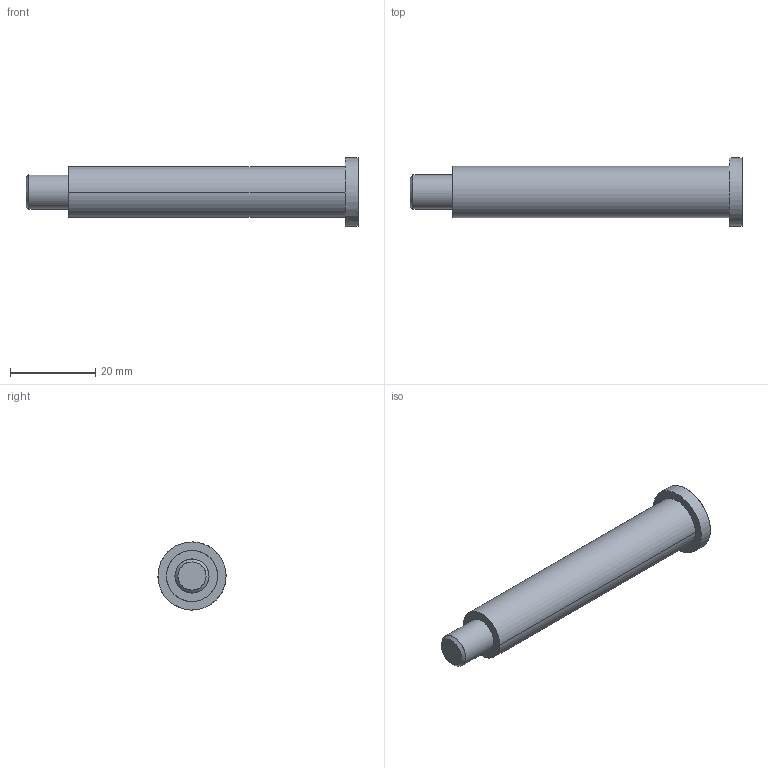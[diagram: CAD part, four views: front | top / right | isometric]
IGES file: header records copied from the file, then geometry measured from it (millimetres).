
Start section: JAMA-IS VERSION  1.0
Global section: file name: E:\tools-models\その他メーカー2\INOAC車輪\7月\HP-100WJ\HP-100WJ-15.igs; native system: CAM-TOOL; preprocessor: C3out Version 11.1.1.50212 (2015/02/12); author: NONE; organization: NONE; date: 200704.164954; units: millimetre
Bounding box: 78 x 16 x 16 mm (x, y, z)
Surface area: 3242.7 mm2 (no closed solid volume)
Topology: 0 solids, 0 shells, 9 faces, 93 edges, 94 vertices
Faces by surface type: bspline 9
